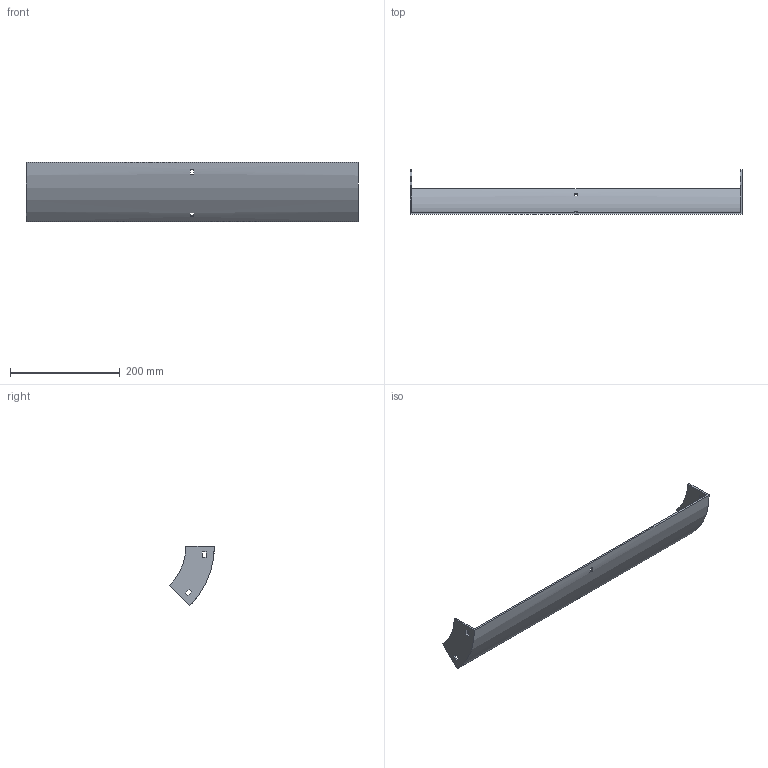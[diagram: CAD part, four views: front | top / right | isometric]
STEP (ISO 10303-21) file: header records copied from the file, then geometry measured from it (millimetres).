
FILE_DESCRIPTION (( 'STEP AP214' ), '1' );
FILE_NAME ('31B1B600.step', '2025-02-21T09:46:53', ( '' ), ( '' ), 'SwSTEP 2.0', 'SolidWorks 2023', '' );
FILE_SCHEMA (( 'AUTOMOTIVE_DESIGN' ));
Length unit declared in the file: millimetre
Products named in the file (1): 31B1B600
Bounding box: 604 x 81.29 x 107.48 mm (x, y, z)
Volume: 281203.1 mm3; surface area: 166848.3 mm2
Topology: 1 solids, 1 shells, 34 faces, 96 edges, 64 vertices
Faces by surface type: plane 30, cylinder 4
Entity records: 1143 total; most frequent: CARTESIAN_POINT 195, ORIENTED_EDGE 192, DIRECTION 182, EDGE_CURVE 96, LINE 80, VECTOR 80, VERTEX_POINT 64, AXIS2_PLACEMENT_3D 51
